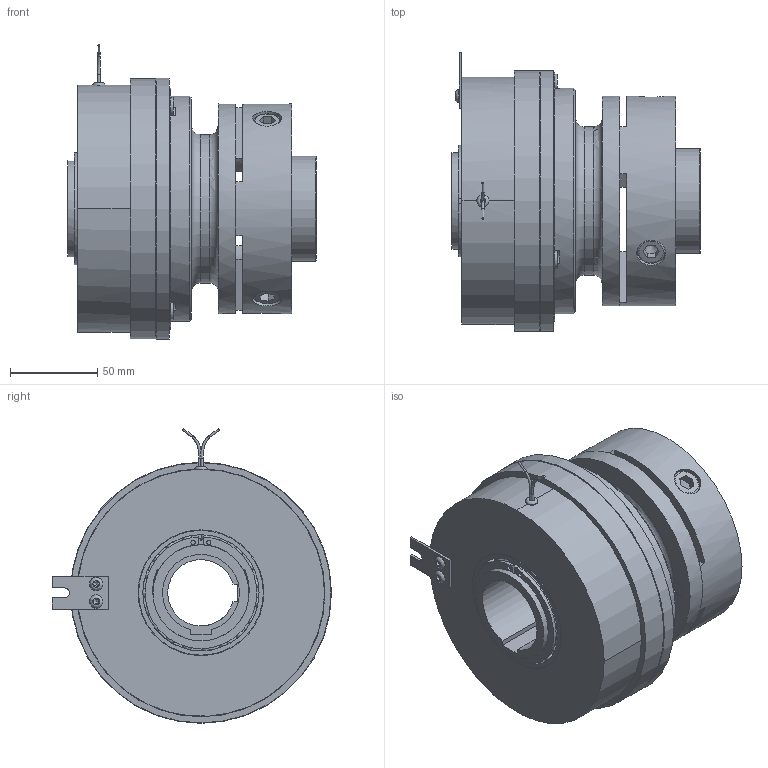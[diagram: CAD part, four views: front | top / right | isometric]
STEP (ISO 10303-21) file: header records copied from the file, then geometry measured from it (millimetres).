
FILE_DESCRIPTION(/* description */ (''),/* implementation_level */ '2;1');
FILE_NAME(/* name */ 'X:\INVENTOR\DISEGNI\08_Freni_Friz_Elettmag_Monodisco\08_26 EMSL_DF\EMSL_DF STEP\Tipo GE\08_26_150_51 EMSL150_DF-GE@STEP.stp',/* time_stamp */ '2019-02-06T07:57:51+01:00',/* author */ ('stefano'),/* organization */ (''),/* preprocessor_version */ 'ST-DEVELOPER v17',/* originating_system */ 'Autodesk Inventor 2018',/* authorisation */ '');
FILE_SCHEMA (('AUTOMOTIVE_DESIGN { 1 0 10303 214 3 1 1 }'));
Length unit declared in the file: millimetre
Products named in the file (1): 08_26_150_51 EMSL150_DF-GE_Substitute_1
Bounding box: 142 x 159.75 x 168.72 mm (x, y, z)
Volume: 1230248.4 mm3; surface area: 255602.6 mm2
Topology: 3 solids, 3 shells, 648 faces, 2128 edges, 1442 vertices
Faces by surface type: cylinder 242, plane 232, torus 99, sphere 38, cone 33, bspline 4
Full cylindrical faces by diameter (mm): 1.154 x2, 1.5 x1, 2.2 x3, 2.5 x4, 3 x2, 6 x1, 6.1 x6, 6.647 x3, 7.5 x3, 7.6 x2, 8 x3, 8.1 x3, 8.376 x6, 10 x6, 11 x3, 13 x3, 16 x6, 16.5 x6, 52 x2, 55 x6, 60 x2, 60.44 x4, 62 x2, 66.56 x4, 71.5 x1, 72 x6, 75 x2, 85 x1, 95 x1, 120 x2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
Entity records: 28274 total; most frequent: CARTESIAN_POINT 8829, ORIENTED_EDGE 4082, DIRECTION 4025, EDGE_CURVE 2041, AXIS2_PLACEMENT_3D 1746, VERTEX_POINT 1443, CIRCLE 1101, EDGE_LOOP 867
